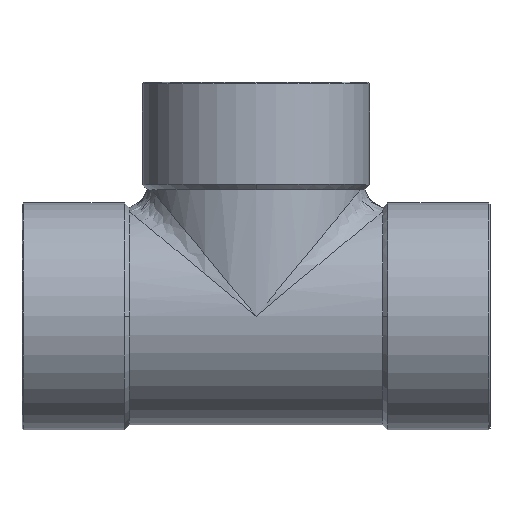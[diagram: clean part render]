
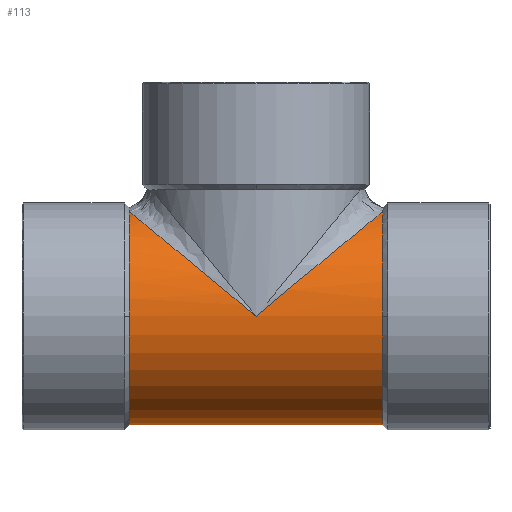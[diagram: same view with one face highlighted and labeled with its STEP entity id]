
A CAD part, top view. The second image highlights one B-rep face of the part: STEP entity #113.
In plain terms, the highlighted cylindrical face has radius 38.1 mm (diameter 76.2 mm), a partial arc.
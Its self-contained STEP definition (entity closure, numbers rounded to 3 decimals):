
#44=CARTESIAN_POINT('',(0.,0.,0.0));
#45=DIRECTION('',(1.0,0.,0.0));
#46=DIRECTION('',(0.0,1.0,0.0));
#47=AXIS2_PLACEMENT_3D('',#44,#45,#46);
#48=CYLINDRICAL_SURFACE('',#47,38.1);
#49=CARTESIAN_POINT('',(44.5,-38.1,0.));
#50=VERTEX_POINT('',#49);
#51=CARTESIAN_POINT('',(-44.5,-38.1,0.));
#52=VERTEX_POINT('',#51);
#53=CARTESIAN_POINT('',(44.5,-38.1,0.));
#54=DIRECTION('',(-1.0,0.0,0.0));
#55=VECTOR('',#54,89.);
#56=LINE('',#53,#55);
#57=EDGE_CURVE('',#50,#52,#56,.T.);
#58=ORIENTED_EDGE('',*,*,#57,.F.);
#59=CARTESIAN_POINT('',(44.5,0.,38.1));
#60=VERTEX_POINT('',#59);
#61=CARTESIAN_POINT('',(44.5,0.,0.0));
#62=DIRECTION('',(-1.0,0.0,0.0));
#63=DIRECTION('',(0.0,1.0,0.0));
#64=AXIS2_PLACEMENT_3D('',#61,#62,#63);
#65=CIRCLE('',#64,38.1);
#66=EDGE_CURVE('',#50,#60,#65,.T.);
#67=ORIENTED_EDGE('',*,*,#66,.T.);
#68=CARTESIAN_POINT('',(44.5,36.778,9.951));
#69=VERTEX_POINT('',#68);
#70=CARTESIAN_POINT('',(44.5,0.,0.0));
#71=DIRECTION('',(-1.0,0.0,0.0));
#72=DIRECTION('',(0.0,1.0,0.0));
#73=AXIS2_PLACEMENT_3D('',#70,#71,#72);
#74=CIRCLE('',#73,38.1);
#75=EDGE_CURVE('',#60,#69,#74,.T.);
#76=ORIENTED_EDGE('',*,*,#75,.T.);
#77=CARTESIAN_POINT('',(0.,0.,38.1));
#78=VERTEX_POINT('',#77);
#79=CARTESIAN_POINT('',(0.0,0.,0.0));
#80=DIRECTION('',(-0.637,0.771,0.));
#81=DIRECTION('',(0.771,0.637,0.0));
#82=AXIS2_PLACEMENT_3D('',#79,#80,#81);
#83=ELLIPSE('',#82,59.807,38.1);
#84=EDGE_CURVE('',#78,#69,#83,.T.);
#85=ORIENTED_EDGE('',*,*,#84,.F.);
#86=CARTESIAN_POINT('',(-44.5,36.778,9.951));
#87=VERTEX_POINT('',#86);
#88=CARTESIAN_POINT('',(0.0,0.,0.0));
#89=DIRECTION('',(0.637,0.771,0.));
#90=DIRECTION('',(-0.771,0.637,0.0));
#91=AXIS2_PLACEMENT_3D('',#88,#89,#90);
#92=ELLIPSE('',#91,59.807,38.1);
#93=EDGE_CURVE('',#87,#78,#92,.T.);
#94=ORIENTED_EDGE('',*,*,#93,.F.);
#95=CARTESIAN_POINT('',(-44.5,0.,38.1));
#96=VERTEX_POINT('',#95);
#97=CARTESIAN_POINT('',(-44.5,0.,0.0));
#98=DIRECTION('',(1.0,0.0,0.0));
#99=DIRECTION('',(0.0,1.0,0.0));
#100=AXIS2_PLACEMENT_3D('',#97,#98,#99);
#101=CIRCLE('',#100,38.1);
#102=EDGE_CURVE('',#87,#96,#101,.T.);
#103=ORIENTED_EDGE('',*,*,#102,.T.);
#104=CARTESIAN_POINT('',(-44.5,0.,0.0));
#105=DIRECTION('',(1.0,0.0,0.0));
#106=DIRECTION('',(0.0,1.0,0.0));
#107=AXIS2_PLACEMENT_3D('',#104,#105,#106);
#108=CIRCLE('',#107,38.1);
#109=EDGE_CURVE('',#96,#52,#108,.T.);
#110=ORIENTED_EDGE('',*,*,#109,.T.);
#111=EDGE_LOOP('',(#58,#67,#76,#85,#94,#103,#110));
#112=FACE_OUTER_BOUND('',#111,.T.);
#113=ADVANCED_FACE('',(#112),#48,.T.);
